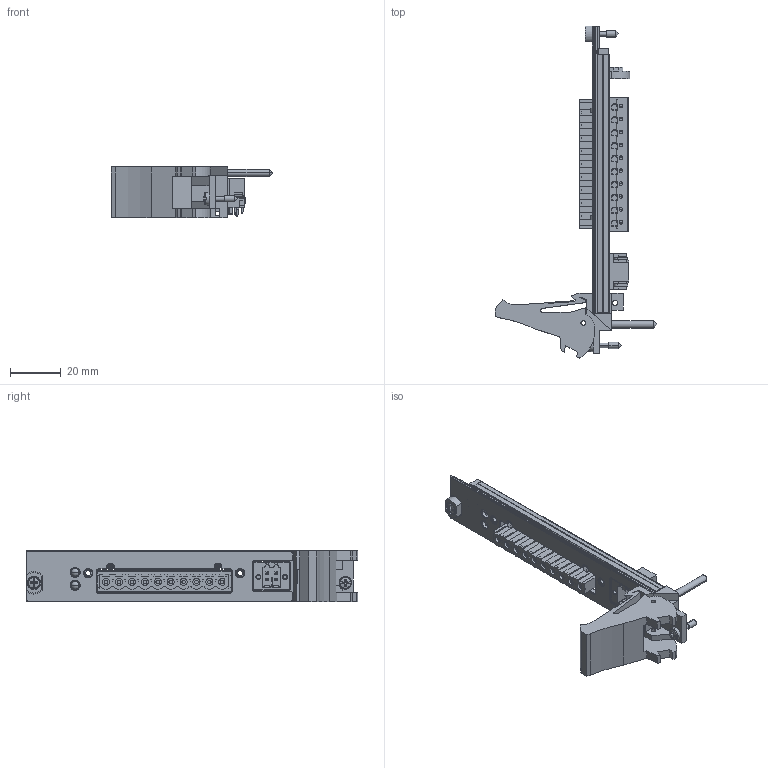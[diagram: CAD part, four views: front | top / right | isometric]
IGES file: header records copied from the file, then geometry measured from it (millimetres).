
Start section:  PTC IGES file: cu_pxie-411x.igs
Global section: file name: cu_pxie-411x.igs; native system: Pro/ENGINEER by Parametric Technology Corporation; preprocessor: 2011490; author: jjorden; organization: Unknown; date: 20130320.132916; units: inch
Bounding box: 63.53 x 130.5 x 20.29 mm (x, y, z)
Surface area: 20329 mm2 (no closed solid volume)
Topology: 0 solids, 0 shells, 2123 faces, 10202 edges, 10169 vertices
Faces by surface type: bspline 1669, revolution 454
